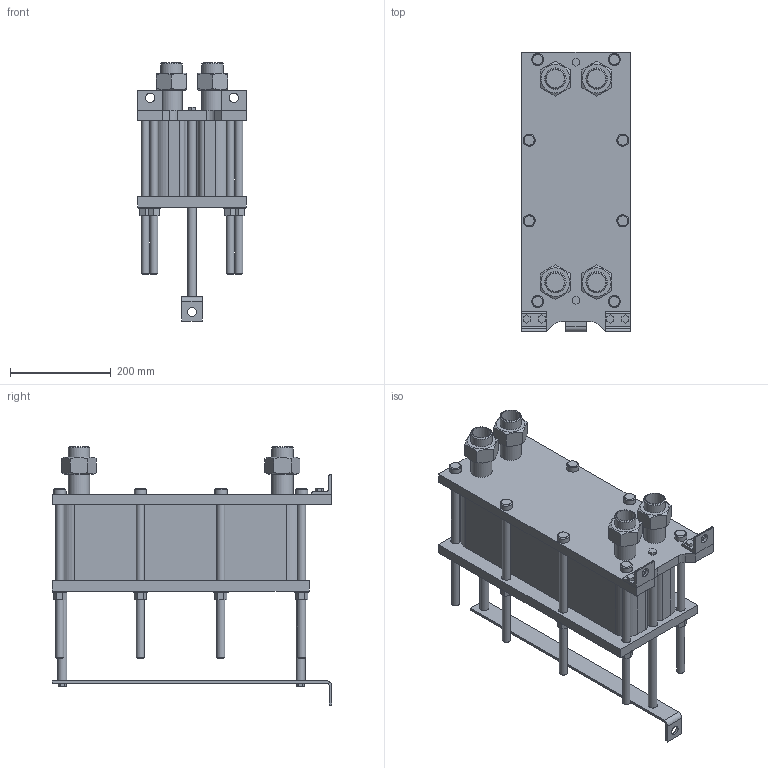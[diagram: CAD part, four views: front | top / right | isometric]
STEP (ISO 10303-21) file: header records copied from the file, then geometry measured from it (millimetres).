
FILE_DESCRIPTION(/* description */ (''),/* implementation_level */ '2;1');
FILE_NAME(/* name */ 'C:\Users\zhuro\Desktop\ENCO\TO\ЭН-004\ЭН-0,5-004-49-1.stp',/* time_stamp */ '2022-06-06T10:47:00+03:00',/* author */ ('zhuro'),/* organization */ (''),/* preprocessor_version */ 'ST-DEVELOPER v18.1',/* originating_system */ 'Autodesk Inventor 2022',/* authorisation */ '');
FILE_SCHEMA (('AUTOMOTIVE_DESIGN { 1 0 10303 214 3 1 1 }'));
Length unit declared in the file: millimetre
Products named in the file (1): ЭН-0,5-004-49-1
Bounding box: 216 x 555 x 512.2 mm (x, y, z)
Volume: 16967407.6 mm3; surface area: 1287868 mm2
Topology: 40 solids, 40 shells, 403 faces, 865 edges, 574 vertices
Faces by surface type: plane 272, cylinder 103, cone 28
Full cylindrical faces by diameter (mm): 10 x4, 16 x16, 18 x29, 20 x2, 24 x8, 28 x8, 36.3 x5, 42.3 x9
Entity records: 11137 total; most frequent: CARTESIAN_POINT 1939, DIRECTION 1879, ORIENTED_EDGE 1730, EDGE_CURVE 865, AXIS2_PLACEMENT_3D 658, VERTEX_POINT 574, LINE 563, VECTOR 563
